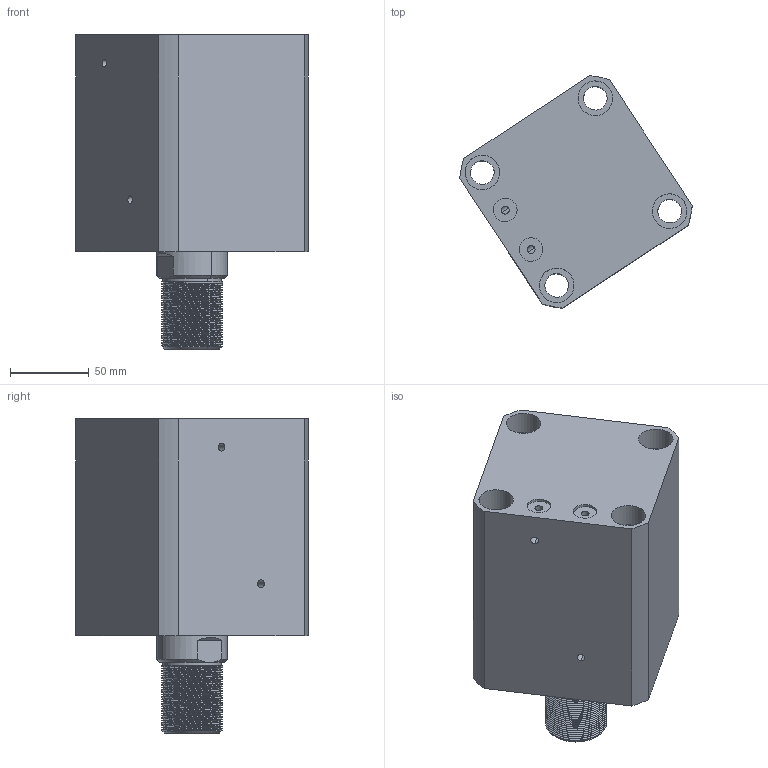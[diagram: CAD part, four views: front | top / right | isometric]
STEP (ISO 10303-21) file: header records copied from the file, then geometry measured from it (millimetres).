
FILE_DESCRIPTION (( 'STEP AP214' ), '1' );
FILE_NAME ('chtb-sdmb80x60w_asm.STEP', '2018-05-26T02:14:09', ( 'Windows' ), ( 'Microsoft' ), 'SwSTEP 2.0', 'SolidWorks 2015', '' );
FILE_SCHEMA (( 'AUTOMOTIVE_DESIGN' ));
Length unit declared in the file: millimetre
Products named in the file (4): CHTB-SDMB80X60NBT; CHTB-SD80X60WHSG; CHTB-SD80QG; chtb-sdmb80x60w_asm
Assembly tree (3 placements, depth 2):
  chtb-sdmb80x60w_asm
    CHTB-SD80QG
    CHTB-SD80X60WHSG
    CHTB-SDMB80X60NBT
Bounding box: 147.97 x 147.97 x 200 mm (x, y, z)
Volume: 1501934.8 mm3; surface area: 218263.4 mm2
Topology: 3 solids, 3 shells, 251 faces, 695 edges, 466 vertices
Faces by surface type: cylinder 163, plane 38, torus 18, bspline 16, cone 16
Entity records: 20297 total; most frequent: CARTESIAN_POINT 14321, ORIENTED_EDGE 1382, DIRECTION 1068, EDGE_CURVE 691, VERTEX_POINT 466, AXIS2_PLACEMENT_3D 433, EDGE_LOOP 289, ADVANCED_FACE 251
